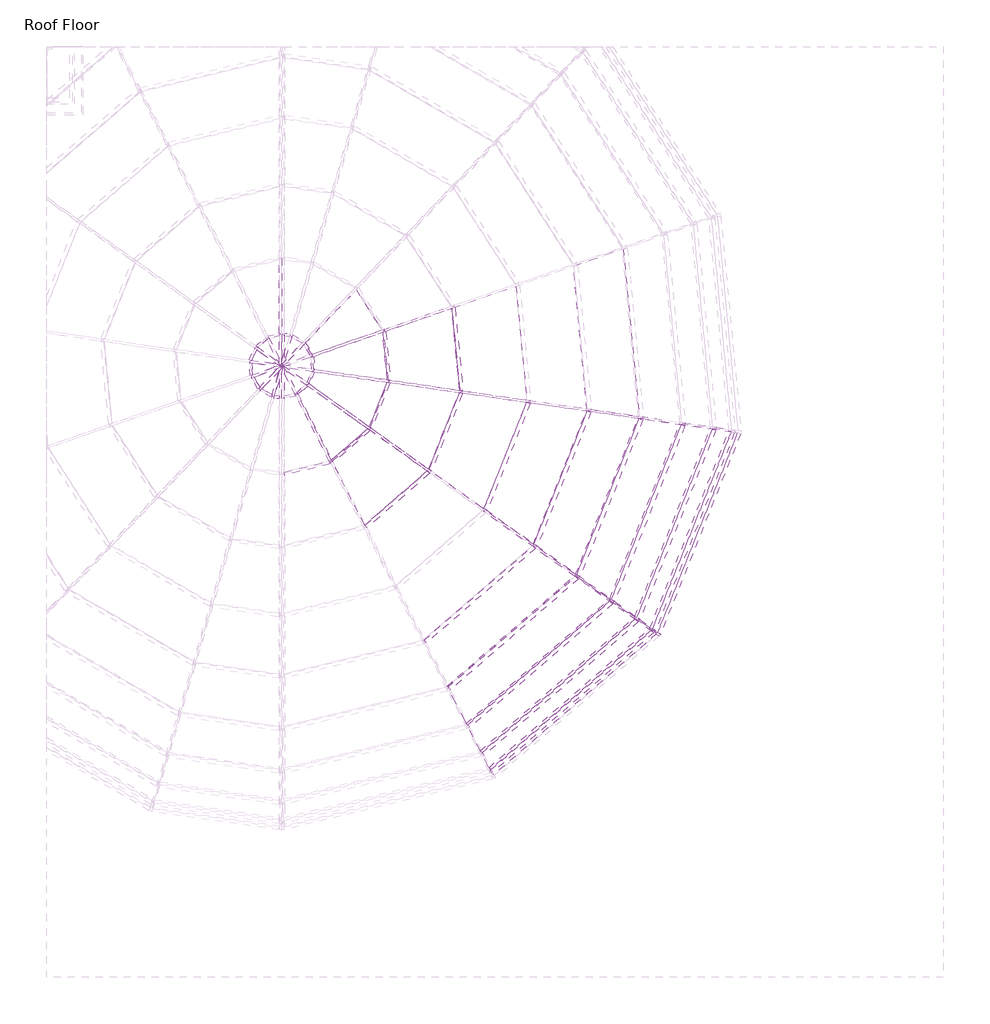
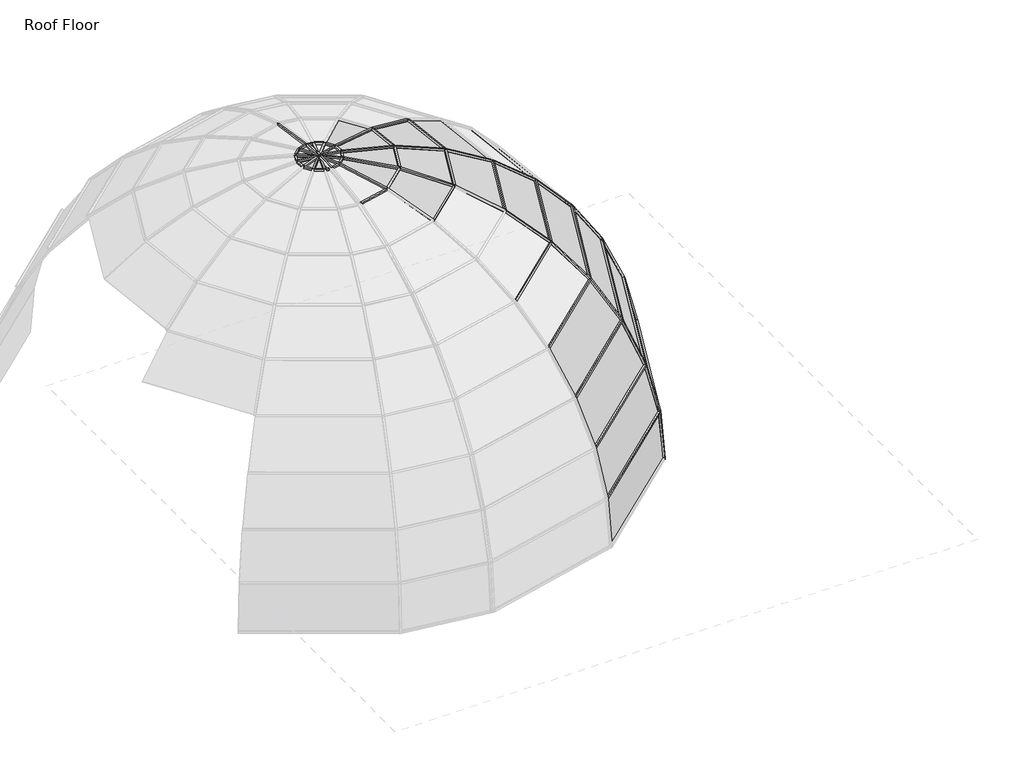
# One storey, part 3 of 5: 68 members, 25 plates.
"""IFC4 building model written with IfcOpenShell, lengths in millimetres."""

from ifc_helpers import new_model, si_unit, origin, place, context, project, spatial, transform, mapped, element, save
from components import member_e5884c93, member_1644e863, member_ecfbb555, member_3542fcca, member_2c5cd547, member_c2b6c823, member_dee8aa16, member_df6d12cb, member_6952dcc5, member_16c772f1, member_16816f3b, member_95e271e4, member_1143d828, member_7f7bd10d, member_27f65fe7, member_dc070f92, member_3534141e, member_d896c3fe, member_8ccf5568, member_fbc4017a, system_panel_glazed_e103372f, system_panel_glazed_c16507b5, system_panel_glazed_afa622ac, system_panel_glazed_079f8796, system_panel_glazed_c9cd471f, system_panel_glazed_44273b71, system_panel_glazed_224b1453, system_panel_glazed_17e44092, system_panel_glazed_1d538f7b, system_panel_glazed_72ef945e, system_panel_glazed_cac35f12, system_panel_glazed_1ef52394, system_panel_glazed_6927b413, system_panel_glazed_f7af2f91

model = new_model("IFC4")

# Units and contexts
model_context = context("Model", 3, world=origin())
ifc_project = project(units=[si_unit("LENGTHUNIT", "METRE", prefix="MILLI")], contexts=[model_context])

# Site, building, storey
site = spatial("IfcSite", under=ifc_project)
building = spatial("IfcBuilding", under=site)
storey = spatial("IfcBuildingStorey", under=building, Name="Roof Floor", Elevation=15240.0)

# Members
placement = place(None, origin())
member_shape = member_e5884c93(model_context)
element("IfcMember", 1, ObjectType="Rectangular Mullion : 1\" Square", at=placement, inside=storey, context=model_context, shape_type="MappedRepresentation", body=[
    mapped(member_shape, transform((443.8592683, -2777.9023232, 21117.9670279), x_axis=(-0.4123904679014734, 0.4760922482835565, 0.7767047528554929), y_axis=(0.5085307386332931, -0.5870832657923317, 0.6298648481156), z_axis=(0.7558641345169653, 0.6547285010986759, 0.0))),
])
element("IfcMember", 2, ObjectType="Rectangular Mullion : 1\" Square", at=placement, inside=storey, context=model_context, shape_type="MappedRepresentation", body=[
    mapped(member_shape, transform((1078.3289079, -1210.0551724, 21117.9670279), x_axis=(-0.584678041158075, 0.23426761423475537, 0.7767047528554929), y_axis=(0.7209835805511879, -0.28888224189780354, 0.6298648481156), z_axis=(0.37193314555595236, 0.928259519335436, 0.0))),
])
member_2_shape = member_1644e863(model_context)
element("IfcMember", 3, ObjectType="Rectangular Mullion : 1\" Square", at=placement, inside=storey, context=model_context, shape_type="MappedRepresentation", body=[
    mapped(member_2_shape, transform((786.0441912, -3021.6914235, 20482.2624164), x_axis=(-0.32116850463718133, 0.3707792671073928, 0.8714204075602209), y_axis=(0.5705437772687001, -0.6586754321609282, 0.4905369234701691), z_axis=(0.7558641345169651, 0.6547285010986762, 0.0))),
])
element("IfcMember", 4, ObjectType="Rectangular Mullion : 1\" Square", at=placement, inside=storey, context=model_context, shape_type="MappedRepresentation", body=[
    mapped(member_2_shape, transform((1494.1786406, -1269.9938637, 20482.2624164), x_axis=(-0.45534556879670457, 0.18244694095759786, 0.8714204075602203), y_axis=(0.8089042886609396, -0.3241101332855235, 0.4905369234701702), z_axis=(0.371933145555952, 0.9282595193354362, 0.0))),
])
member_3_shape = member_ecfbb555(model_context)
element("IfcMember", 5, ObjectType="Rectangular Mullion : 1\" Square", at=placement, inside=storey, context=model_context, shape_type="MappedRepresentation", body=[
    mapped(member_3_shape, transform((1037.4860785, -3200.8307935, 19785.6060711), x_axis=(-0.21998759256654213, 0.2539689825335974, 0.9418626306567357), y_axis=(0.61666430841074, -0.7119201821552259, 0.33599819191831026), z_axis=(0.7558641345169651, 0.6547285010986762, 0.0))),
])
element("IfcMember", 6, ObjectType="Rectangular Mullion : 1\" Square", at=placement, inside=storey, context=model_context, shape_type="MappedRepresentation", body=[
    mapped(member_3_shape, transform((1799.7503787, -1314.0375859, 19785.6060711), x_axis=(-0.3118935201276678, 0.12496886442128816, 0.9418626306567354), y_axis=(0.8742929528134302, -0.3503099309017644, 0.3359981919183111), z_axis=(0.3719331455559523, 0.928259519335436, 0.0))),
])
member_4_shape = member_3542fcca(model_context)
element("IfcMember", 7, ObjectType="Rectangular Mullion : 1\" Square", at=placement, inside=storey, context=model_context, shape_type="MappedRepresentation", body=[
    mapped(member_4_shape, transform((1191.2004334, -3310.3443394, 19047.3495572), x_axis=(-0.11180378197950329, 0.12907406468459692, 0.9853120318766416), y_axis=(0.6451118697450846, -0.7447620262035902, 0.17076357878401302), z_axis=(0.7558641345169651, 0.6547285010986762, 0.0))),
])
element("IfcMember", 8, ObjectType="Rectangular Mullion : 1\" Square", at=placement, inside=storey, context=model_context, shape_type="MappedRepresentation", body=[
    mapped(member_4_shape, transform((1986.5560183, -1340.9629021, 19047.3495572), x_axis=(-0.15851291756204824, 0.06351263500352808, 0.9853120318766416), y_axis=(0.914625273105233, -0.3664702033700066, 0.17076357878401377), z_axis=(0.37193314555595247, 0.9282595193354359, 0.0))),
])
member_5_shape = member_2c5cd547(model_context)
element("IfcMember", 9, ObjectType="Rectangular Mullion : 1\" Square", at=placement, inside=storey, context=model_context, shape_type="MappedRepresentation", body=[
    mapped(member_5_shape, transform((-2778.6228692, -629.1922106, 22849.1034008), x_axis=(0.9261696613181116, -0.37109578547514, 0.0670647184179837), y_axis=(-0.062253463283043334, 0.02494359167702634, 0.9977486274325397), z_axis=(-0.37193314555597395, -0.9282595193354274, 0.0))),
])
element("IfcMember", 10, ObjectType="Rectangular Mullion : 1\" Square", at=placement, inside=storey, context=model_context, shape_type="MappedRepresentation", body=[
    mapped(member_5_shape, transform((-2718.4357175, -494.6219605, 22849.1034008), x_axis=(0.6532544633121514, -0.7541624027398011, 0.0670647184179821), y_axis=(-0.04390918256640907, 0.05069181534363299, 0.9977486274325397), z_axis=(-0.7558641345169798, -0.6547285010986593, 0.0))),
])
element("IfcMember", 11, ObjectType="Rectangular Mullion : 1\" Square", at=placement, inside=storey, context=model_context, shape_type="MappedRepresentation", body=[
    mapped(member_5_shape, transform((-2571.1893455, -982.2556366, 22849.1034008), x_axis=(0.4994285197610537, 0.8637554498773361, 0.06706471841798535), y_axis=(-0.033569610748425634, -0.05805822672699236, 0.9977486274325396), z_axis=(0.8657044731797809, -0.5005554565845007, 0.0))),
])
element("IfcMember", 12, ObjectType="Rectangular Mullion : 1\" Square", at=placement, inside=storey, context=model_context, shape_type="MappedRepresentation", body=[
    mapped(member_5_shape, transform((-2695.796785, -903.4861534, 22849.1034008), x_axis=(0.8396425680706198, 0.5389830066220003, 0.06706471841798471), y_axis=(-0.056437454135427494, -0.03622830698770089, 0.9977486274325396), z_axis=(0.5401991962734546, -0.8415371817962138, 0.0))),
])
element("IfcMember", 13, ObjectType="Rectangular Mullion : 1\" Square", at=placement, inside=storey, context=model_context, shape_type="MappedRepresentation", body=[
    mapped(member_5_shape, transform((-2770.4728536, -776.38332, 22849.1034008), x_axis=(0.9932693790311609, 0.09443656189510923, 0.06706471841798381), y_axis=(-0.06676364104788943, -0.006347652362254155, 0.9977486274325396), z_axis=(0.09464965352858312, -0.9955106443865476, 0.0))),
])
element("IfcMember", 14, ObjectType="Rectangular Mullion : 1\" Square", at=placement, inside=storey, context=model_context, shape_type="MappedRepresentation", body=[
    mapped(member_5_shape, transform((-2223.7755139, -877.3501947, 22849.1034008), x_axis=(-0.6532544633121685, 0.754162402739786, 0.0670647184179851), y_axis=(0.04390918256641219, -0.050691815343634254, 0.9977486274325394), z_axis=(0.7558641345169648, 0.6547285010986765, 0.0))),
])
element("IfcMember", 15, ObjectType="Rectangular Mullion : 1\" Square", at=placement, inside=storey, context=model_context, shape_type="MappedRepresentation", body=[
    mapped(member_5_shape, transform((-2163.5883622, -742.7799446, 22849.1034008), x_axis=(-0.9261696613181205, 0.3710957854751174, 0.06706471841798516), y_axis=(0.0622534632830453, -0.024943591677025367, 0.9977486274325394), z_axis=(0.37193314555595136, 0.9282595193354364, 0.0))),
])
element("IfcMember", 16, ObjectType="Rectangular Mullion : 1\" Square", at=placement, inside=storey, context=model_context, shape_type="MappedRepresentation", body=[
    mapped(member_5_shape, transform((-2171.7383778, -595.5888351, 22849.1034008), x_axis=(-0.9932693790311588, -0.0944365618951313, 0.06706471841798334), y_axis=(0.06676364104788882, 0.006347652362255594, 0.9977486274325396), z_axis=(-0.09464965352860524, 0.9955106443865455, 0.0))),
])
element("IfcMember", 17, ObjectType="Rectangular Mullion : 1\" Square", at=placement, inside=storey, context=model_context, shape_type="MappedRepresentation", body=[
    mapped(member_5_shape, transform((-2246.4144464, -468.4860018, 22849.1034008), x_axis=(-0.8396425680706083, -0.5389830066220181, 0.06706471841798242), y_axis=(0.056437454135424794, 0.03622830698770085, 0.9977486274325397), z_axis=(-0.5401991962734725, 0.8415371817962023, 0.0))),
])
element("IfcMember", 18, ObjectType="Rectangular Mullion : 1\" Square", at=placement, inside=storey, context=model_context, shape_type="MappedRepresentation", body=[
    mapped(member_5_shape, transform((-2371.0218859, -389.7165186, 22849.1034008), x_axis=(-0.499428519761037, -0.863755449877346, 0.06706471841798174), y_axis=(0.033569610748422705, 0.05805822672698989, 0.9977486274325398), z_axis=(-0.8657044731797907, 0.500555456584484, 0.0))),
])
member_6_shape = member_c2b6c823(model_context)
element("IfcMember", 19, ObjectType="Rectangular Mullion : 1\" Square", at=placement, inside=storey, context=model_context, shape_type="MappedRepresentation", body=[
    mapped(member_6_shape, transform((-2603.2863208, -402.5770697, 22849.1034008), x_axis=(0.23517160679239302, -0.9696373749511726, 0.06706471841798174), y_axis=(-0.015807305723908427, 0.0651751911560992, 0.9977486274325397), z_axis=(-0.9718253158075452, -0.2357022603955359, 0.0))),
])
element("IfcMember", 20, ObjectType="Rectangular Mullion : 1\" Square", at=placement, inside=storey, context=model_context, shape_type="MappedRepresentation", body=[
    mapped(member_6_shape, transform((-2338.9249106, -969.3950855, 22849.1034008), x_axis=(-0.23517160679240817, 0.9696373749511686, 0.06706471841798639), y_axis=(0.015807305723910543, -0.06517519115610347, 0.9977486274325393), z_axis=(0.9718253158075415, 0.23570226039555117, 0.0))),
])
member_7_shape = member_dee8aa16(model_context)
element("IfcMember", 21, ObjectType="Rectangular Mullion : 1\" Square", at=placement, inside=storey, context=model_context, shape_type="MappedRepresentation", body=[
    mapped(member_7_shape, transform((-1610.3728189, -1314.3679625, 22733.3596998), x_axis=(-0.6375613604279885, 0.7360451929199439, 0.22749282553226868), y_axis=(0.14894603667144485, -0.17195366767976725, 0.9737797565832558), z_axis=(0.7558641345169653, 0.6547285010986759, 0.0))),
])
element("IfcMember", 22, ObjectType="Rectangular Mullion : 1\" Square", at=placement, inside=storey, context=model_context, shape_type="MappedRepresentation", body=[
    mapped(member_7_shape, transform((-1418.133698, -850.2263934, 22733.3596998), x_axis=(-0.9039203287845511, 0.3621809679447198, 0.22749282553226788), y_axis=(0.21117238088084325, -0.08461212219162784, 0.973779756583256), z_axis=(0.3719331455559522, 0.928259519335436, 0.0))),
])
element("IfcMember", 23, ObjectType="Rectangular Mullion : 1\" Square", at=placement, inside=storey, context=model_context, shape_type="MappedRepresentation", body=[
    mapped(member_7_shape, transform((-1459.8883366, -349.5869764, 22733.3596998), x_axis=(-0.9694081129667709, -0.09216791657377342, 0.227492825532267), y_axis=(0.22647152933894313, 0.021532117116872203, 0.9737797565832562), z_axis=(-0.09464965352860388, 0.9955106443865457, 0.0))),
])
member_8_shape = member_df6d12cb(model_context)
element("IfcMember", 24, ObjectType="Rectangular Mullion : 1\" Square", at=placement, inside=storey, context=model_context, shape_type="MappedRepresentation", body=[
    mapped(member_8_shape, transform((-1993.8858946, -1638.8691127, 22733.3596998), x_axis=(-0.22952208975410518, 0.9463438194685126, 0.2274928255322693), y_axis=(0.05362057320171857, -0.22108328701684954, 0.9737797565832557), z_axis=(0.9718253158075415, 0.2357022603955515, 0.0))),
])
member_9_shape = member_6952dcc5(model_context)
element("IfcMember", 25, ObjectType="Rectangular Mullion : 1\" Square", at=placement, inside=storey, context=model_context, shape_type="MappedRepresentation", body=[
    mapped(member_9_shape, transform((1257.240438, -3327.0860706, 18288.0), x_axis=(0.07519001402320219, -0.03012698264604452, -0.9967140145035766), y_axis=(0.9252092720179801, -0.3707109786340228, 0.08100106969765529), z_axis=(-0.3719331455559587, -0.9282595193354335, 0.0))),
])
member_10_shape = member_16c772f1(model_context)
element("IfcMember", 26, ObjectType="Rectangular Mullion : 1\" Square", at=placement, inside=storey, context=model_context, shape_type="MappedRepresentation", body=[
    mapped(member_10_shape, transform((-1021.1460202, -1734.1616515, 22494.1337848), x_axis=(-0.60492226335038, 0.6983643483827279, 0.38256540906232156), y_axis=(0.2504764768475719, -0.2891674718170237, 0.9239284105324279), z_axis=(0.7558641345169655, 0.6547285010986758, 0.0))),
])
element("IfcMember", 27, ObjectType="Rectangular Mullion : 1\" Square", at=placement, inside=storey, context=model_context, shape_type="MappedRepresentation", body=[
    mapped(member_10_shape, transform((-702.0594635, -953.4380805, 22494.1337848), x_axis=(-0.8576453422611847, 0.3436395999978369, 0.3825654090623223), y_axis=(0.3551199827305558, -0.1422887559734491, 0.9239284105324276), z_axis=(0.37193314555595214, 0.9282595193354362, 0.0))),
])
element("IfcMember", 28, ObjectType="Rectangular Mullion : 1\" Square", at=placement, inside=storey, context=model_context, shape_type="MappedRepresentation", body=[
    mapped(member_10_shape, transform((-776.094274, -113.2807311, 22494.1337848), x_axis=(-0.9197805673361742, -0.08744950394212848, 0.3825654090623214), y_axis=(0.3808479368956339, 0.03620968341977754, 0.9239284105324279), z_axis=(-0.09464965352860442, 0.9955106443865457, 0.0))),
])
member_11_shape = member_16816f3b(model_context)
element("IfcMember", 29, ObjectType="Rectangular Mullion : 1\" Square", at=placement, inside=storey, context=model_context, shape_type="MappedRepresentation", body=[
    mapped(member_11_shape, transform((-35.2566097, -1049.5480147, 22138.0708204), x_axis=(-0.7880786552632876, 0.31576576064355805, 0.5284165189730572), y_axis=(0.4905076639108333, -0.19653561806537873, 0.8489852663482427), z_axis=(0.37193314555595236, 0.928259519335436, 0.0))),
])
member_12_shape = member_95e271e4(model_context)
element("IfcMember", 30, ObjectType="Rectangular Mullion : 1\" Square", at=placement, inside=storey, context=model_context, shape_type="MappedRepresentation", body=[
    mapped(member_12_shape, transform((20.4364465, -2476.2354119, 21675.0614442), x_axis=(-0.4912361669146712, 0.5671172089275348, 0.6611089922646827), y_axis=(0.43284689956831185, -0.4997085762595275, 0.7502898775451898), z_axis=(0.7558641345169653, 0.6547285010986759, 0.0))),
])
element("IfcMember", 31, ObjectType="Rectangular Mullion : 1\" Square", at=placement, inside=storey, context=model_context, shape_type="MappedRepresentation", body=[
    mapped(member_12_shape, transform((563.752562, -1135.8864755, 21675.0614442), x_axis=(-0.6964637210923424, 0.2790576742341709, 0.6611089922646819), y_axis=(0.6136807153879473, -0.24588834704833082, 0.7502898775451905), z_axis=(0.3719331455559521, 0.9282595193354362, 0.0))),
])
member_13_shape = member_1143d828(model_context)
element("IfcMember", 32, ObjectType="Rectangular Mullion : 1\" Square", at=placement, inside=storey, context=model_context, shape_type="MappedRepresentation", body=[
    mapped(member_13_shape, transform((-2496.2458139, -997.8300214, 22849.1034008), x_axis=(0.1423280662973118, 0.9874604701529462, 0.06829744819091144), y_axis=(-0.00974339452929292, -0.06759887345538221, 0.9976650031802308), z_axis=(0.9897715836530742, -0.14266117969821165, 0.0))),
])
element("IfcMember", 33, ObjectType="Rectangular Mullion : 1\" Square", at=placement, inside=storey, context=model_context, shape_type="MappedRepresentation", body=[
    mapped(member_13_shape, transform((-2445.9654175, -374.1421337, 22849.1034008), x_axis=(-0.14232806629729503, -0.987460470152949, 0.06829744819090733), y_axis=(0.009743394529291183, 0.06759887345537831, 0.997665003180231), z_axis=(-0.9897715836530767, 0.14266117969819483, 0.0))),
])
member_14_shape = member_7f7bd10d(model_context)
element("IfcMember", 34, ObjectType="Rectangular Mullion : 1\" Square", at=placement, inside=storey, context=model_context, shape_type="MappedRepresentation", body=[
    mapped(member_14_shape, transform((1200.7999079, -3302.0292875, 19047.3495572), x_axis=(0.5802469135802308, 0.8144406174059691, 0.0), y_axis=(0.7890631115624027, -0.5621667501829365, 0.24768518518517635), z_axis=(0.20172487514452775, -0.1437185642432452, -0.9688405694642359))),
])
element("IfcMember", 35, ObjectType="Rectangular Mullion : 1\" Square", at=placement, inside=storey, context=model_context, shape_type="MappedRepresentation", body=[
    mapped(member_14_shape, transform((1047.085553, -3192.5157415, 19785.6060711), x_axis=(0.5802469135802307, 0.8144406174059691, 0.0), y_axis=(0.7446000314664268, -0.5304890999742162, 0.40515689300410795), z_axis=(0.32997623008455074, -0.23509103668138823, -0.9142471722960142))),
])
element("IfcMember", 36, ObjectType="Rectangular Mullion : 1\" Square", at=placement, inside=storey, context=model_context, shape_type="MappedRepresentation", body=[
    mapped(member_14_shape, transform((795.6436657, -3013.3763715, 20482.2624164), x_axis=(0.5802469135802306, 0.8144406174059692, 0.0), y_axis=(0.6794536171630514, -0.4840756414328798, 0.5513742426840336), z_axis=(0.449061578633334, -0.3199332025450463, -0.8342580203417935))),
])
element("IfcMember", 37, ObjectType="Rectangular Mullion : 1\" Square", at=placement, inside=storey, context=model_context, shape_type="MappedRepresentation", body=[
    mapped(member_14_shape, transform((453.4587428, -2769.5872712, 21117.9670279), x_axis=(0.5802469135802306, 0.8144406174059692, 0.0), y_axis=(0.5954334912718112, -0.424215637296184, 0.6822756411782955), z_axis=(0.5556729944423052, -0.3958883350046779, -0.7310950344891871))),
])
element("IfcMember", 38, ObjectType="Rectangular Mullion : 1\" Square", at=placement, inside=storey, context=model_context, shape_type="MappedRepresentation", body=[
    mapped(member_14_shape, transform((30.035921, -2467.9203599, 21675.0614442), x_axis=(0.5802469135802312, 0.8144406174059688, 0.0), y_axis=(0.49487354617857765, -0.3525718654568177, 0.7942249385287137), z_axis=(0.6468490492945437, -0.4608465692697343, -0.607623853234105))),
])
element("IfcMember", 39, ObjectType="Rectangular Mullion : 1\" Square", at=placement, inside=storey, context=model_context, shape_type="MappedRepresentation", body=[
    mapped(member_14_shape, transform((-1011.5465457, -1725.8465996, 22494.1337848), x_axis=(0.5802469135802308, 0.8144406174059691, 0.0), y_axis=(0.25568937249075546, -0.18216548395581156, 0.949441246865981), z_axis=(0.773263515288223, -0.5509103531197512, -0.31394477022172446))),
])
element("IfcMember", 40, ObjectType="Rectangular Mullion : 1\" Square", at=placement, inside=storey, context=model_context, shape_type="MappedRepresentation", body=[
    mapped(member_14_shape, transform((1991.2795692, -1329.1740062, 19047.3495572), x_axis=(0.14266117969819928, 0.9897715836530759, 0.0), y_axis=(0.9589308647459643, -0.13821593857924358, 0.247685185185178), z_axis=(0.24515175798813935, -0.03533506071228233, -0.9688405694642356))),
])
element("IfcMember", 41, ObjectType="Rectangular Mullion : 1\" Square", at=placement, inside=storey, context=model_context, shape_type="MappedRepresentation", body=[
    mapped(member_14_shape, transform((1804.4739296, -1302.24869, 19785.6060711), x_axis=(0.14266117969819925, 0.9897715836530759, 0.0), y_axis=(0.9048958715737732, -0.13042758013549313, 0.4051568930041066), z_axis=(0.40101277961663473, -0.057800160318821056, -0.9142471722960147))),
])
element("IfcMember", 42, ObjectType="Rectangular Mullion : 1\" Square", at=placement, inside=storey, context=model_context, shape_type="MappedRepresentation", body=[
    mapped(member_14_shape, transform((1498.9021915, -1258.2049678, 20482.2624164), x_axis=(0.14266117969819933, 0.9897715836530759, 0.0), y_axis=(0.8257248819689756, -0.11901623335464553, 0.5513742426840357), z_axis=(0.5457345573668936, -0.07865969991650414, -0.8342580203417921))),
])
element("IfcMember", 43, ObjectType="Rectangular Mullion : 1\" Square", at=placement, inside=storey, context=model_context, shape_type="MappedRepresentation", body=[
    mapped(member_14_shape, transform((1083.0524588, -1198.2662765, 21117.9670279), x_axis=(0.14266117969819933, 0.9897715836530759, 0.0), y_axis=(0.7236170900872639, -0.10429888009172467, 0.6822756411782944), z_axis=(0.6752970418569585, -0.09733424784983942, -0.7310950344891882))),
])
element("IfcMember", 44, ObjectType="Rectangular Mullion : 1\" Square", at=placement, inside=storey, context=model_context, shape_type="MappedRepresentation", body=[
    mapped(member_14_shape, transform((568.4761129, -1124.0975796, 21675.0614442), x_axis=(0.14266117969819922, 0.989771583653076, 0.0), y_axis=(0.6014088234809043, -0.08668433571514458, 0.7942249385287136), z_axis=(0.7861012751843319, -0.11330506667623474, -0.6076238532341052))),
])
element("IfcMember", 45, ObjectType="Rectangular Mullion : 1\" Square", at=placement, inside=storey, context=model_context, shape_type="MappedRepresentation", body=[
    mapped(member_14_shape, transform((-30.5330588, -1037.7591188, 22138.0708204), x_axis=(0.14266117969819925, 0.989771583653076, 0.0), y_axis=(0.462494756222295, -0.06666189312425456, 0.8841124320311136), z_axis=(0.8750693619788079, -0.12612852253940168, -0.46727423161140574))),
])
element("IfcMember", 46, ObjectType="Rectangular Mullion : 1\" Square", at=placement, inside=storey, context=model_context, shape_type="MappedRepresentation", body=[
    mapped(member_14_shape, transform((-697.3359126, -941.6491846, 22494.1337848), x_axis=(0.1426611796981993, 0.9897715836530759, 0.0), y_axis=(0.310733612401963, -0.04478773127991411, 0.949441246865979), z_axis=(0.9397299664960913, -0.13544840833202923, -0.31394477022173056))),
])
element("IfcMember", 47, ObjectType="Rectangular Mullion : 1\" Square", at=placement, inside=storey, context=model_context, shape_type="MappedRepresentation", body=[
    mapped(member_14_shape, transform((-777.2963246, -100.6377459, 22494.1337848), x_axis=(-0.3266270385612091, 0.9451533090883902, 0.0), y_axis=(0.2967259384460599, 0.10254285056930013, 0.9494412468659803), z_axis=(0.8973675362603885, 0.3101131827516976, -0.3139447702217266))),
])
member_15_shape = member_27f65fe7(model_context)
element("IfcMember", 48, ObjectType="Rectangular Mullion : 1\" Square", at=placement, inside=storey, context=model_context, shape_type="MappedRepresentation", body=[
    mapped(member_15_shape, transform((-1981.5437131, -1635.875694, 22733.3596998), x_axis=(0.8888888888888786, 0.4581228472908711, 0.0), y_axis=(0.06958639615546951, -0.1350174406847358, 0.9883966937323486), z_axis=(0.45280710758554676, -0.8785748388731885, -0.15189462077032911))),
])
element("IfcMember", 49, ObjectType="Rectangular Mullion : 1\" Square", at=placement, inside=storey, context=model_context, shape_type="MappedRepresentation", body=[
    mapped(member_15_shape, transform((-1600.7733444, -1306.0529105, 22733.3596998), x_axis=(0.5802469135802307, 0.8144406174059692, 0.0), y_axis=(0.1237091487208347, -0.08813638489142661, 0.988396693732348), z_axis=(0.804990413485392, -0.5735141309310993, -0.15189462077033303))),
])
element("IfcMember", 50, ObjectType="Rectangular Mullion : 1\" Square", at=placement, inside=storey, context=model_context, shape_type="MappedRepresentation", body=[
    mapped(member_15_shape, transform((-1413.4101471, -838.4374975, 22733.3596998), x_axis=(0.14266117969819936, 0.9897715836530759, 0.0), y_axis=(0.15034097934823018, -0.021669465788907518, 0.9883966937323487), z_axis=(0.9782869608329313, -0.14100583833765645, -0.1518946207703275))),
])
element("IfcMember", 51, ObjectType="Rectangular Mullion : 1\" Square", at=placement, inside=storey, context=model_context, shape_type="MappedRepresentation", body=[
    mapped(member_15_shape, transform((-1461.0903872, -336.9439912, 22733.3596998), x_axis=(-0.3266270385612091, 0.9451533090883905, 0.0), y_axis=(0.14356370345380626, 0.04961289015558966, 0.9883966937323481), z_axis=(0.9341864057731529, 0.3228370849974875, -0.15189462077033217))),
])
member_16_shape = member_dc070f92(model_context)
element("IfcMember", 52, ObjectType="Rectangular Mullion : 1\" Square", at=placement, inside=storey, context=model_context, shape_type="MappedRepresentation", body=[
    mapped(member_16_shape, transform((-2615.6285023, -405.5704884, 22849.1034008), x_axis=(-0.888888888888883, -0.45812284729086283, 0.0), y_axis=(-0.01594182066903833, 0.03093167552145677, 0.9993943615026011), z_axis=(-0.45784539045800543, 0.8883505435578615, -0.034798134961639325))),
])
element("IfcMember", 53, ObjectType="Rectangular Mullion : 1\" Square", at=placement, inside=storey, context=model_context, shape_type="MappedRepresentation", body=[
    mapped(member_16_shape, transform((-2728.035192, -502.9370124, 22849.1034008), x_axis=(-0.5802469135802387, -0.8144406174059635, 0.0), y_axis=(-0.028341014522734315, 0.020191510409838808, 0.9993943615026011), z_axis=(-0.8139473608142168, 0.5798954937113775, -0.03479813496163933))),
])
element("IfcMember", 54, ObjectType="Rectangular Mullion : 1\" Square", at=placement, inside=storey, context=model_context, shape_type="MappedRepresentation", body=[
    mapped(member_16_shape, transform((-2783.3464202, -640.9811065, 22849.1034008), x_axis=(-0.1426611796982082, -0.9897715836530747, 0.0), y_axis=(-0.03444220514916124, 0.004964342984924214, 0.9993943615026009), z_axis=(-0.9891721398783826, 0.14257477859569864, -0.034798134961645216))),
])
element("IfcMember", 55, ObjectType="Rectangular Mullion : 1\" Square", at=placement, inside=storey, context=model_context, shape_type="MappedRepresentation", body=[
    mapped(member_16_shape, transform((-2326.582729, -966.4016667, 22849.1034008), x_axis=(0.8888888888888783, 0.4581228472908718, 0.0), y_axis=(0.015941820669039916, -0.03093167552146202, 0.9993943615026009), z_axis=(0.45784539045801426, -0.8883505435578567, -0.034798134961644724))),
])
element("IfcMember", 56, ObjectType="Rectangular Mullion : 1\" Square", at=placement, inside=storey, context=model_context, shape_type="MappedRepresentation", body=[
    mapped(member_16_shape, transform((-2214.1760394, -869.0351427, 22849.1034008), x_axis=(0.5802469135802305, 0.8144406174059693, 0.0), y_axis=(0.02834101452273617, -0.020191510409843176, 0.9993943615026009), z_axis=(0.8139473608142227, -0.5798954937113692, -0.034798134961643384))),
])
element("IfcMember", 57, ObjectType="Rectangular Mullion : 1\" Square", at=placement, inside=storey, context=model_context, shape_type="MappedRepresentation", body=[
    mapped(member_16_shape, transform((-2158.8648112, -730.9910487, 22849.1034008), x_axis=(0.14266117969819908, 0.989771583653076, 0.0), y_axis=(0.03444220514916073, -0.004964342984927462, 0.9993943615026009), z_axis=(0.989172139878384, -0.1425747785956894, -0.034798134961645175))),
])
element("IfcMember", 58, ObjectType="Rectangular Mullion : 1\" Square", at=placement, inside=storey, context=model_context, shape_type="MappedRepresentation", body=[
    mapped(member_16_shape, transform((-2172.9404284, -582.9458499, 22849.1034008), x_axis=(-0.3266270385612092, 0.9451533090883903, 0.0), y_axis=(0.032889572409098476, 0.011366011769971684, 0.9993943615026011), z_axis=(0.9445808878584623, 0.3264292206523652, -0.03479813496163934))),
])
element("IfcMember", 59, ObjectType="Rectangular Mullion : 1\" Square", at=placement, inside=storey, context=model_context, shape_type="MappedRepresentation", body=[
    mapped(member_16_shape, transform((-2253.2749761, -457.7984796, 22849.1034008), x_axis=(-0.7233314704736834, 0.6905009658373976, 0.0), y_axis=(0.02402814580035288, 0.025170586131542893, 0.9993943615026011), z_axis=(0.6900827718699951, 0.7228933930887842, -0.03479813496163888))),
])
element("IfcMember", 60, ObjectType="Rectangular Mullion : 1\" Square", at=placement, inside=storey, context=model_context, shape_type="MappedRepresentation", body=[
    mapped(member_16_shape, transform((-2382.0163327, -383.3594643, 22849.1034008), x_axis=(-0.9592955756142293, 0.28240396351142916, 0.0), y_axis=(0.009827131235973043, 0.033381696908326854, 0.9993943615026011), z_axis=(0.2822329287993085, 0.9587145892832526, -0.034798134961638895))),
])
member_17_shape = member_3534141e(model_context)
element("IfcMember", 61, ObjectType="Rectangular Mullion : 1\" Square", at=placement, inside=storey, context=model_context, shape_type="MappedRepresentation", body=[
    mapped(member_17_shape, transform((-2471.1056157, -370.5185398, 22849.1034008), x_axis=(0.9993221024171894, 0.005591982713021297, 0.036387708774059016), y_axis=(-0.0368148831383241, 0.15179165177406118, 0.9877266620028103), z_axis=(0.0, -0.9883966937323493, 0.15189462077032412))),
])
member_18_shape = member_d896c3fe(model_context)
element("IfcMember", 62, ObjectType="Rectangular Mullion : 1\" Square", at=placement, inside=storey, context=model_context, shape_type="MappedRepresentation", body=[
    mapped(member_18_shape, transform((-2471.1056157, -683.4460776, 22859.9992944), x_axis=(0.9999649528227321, 0.00029133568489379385, 0.008367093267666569), y_axis=(-0.008372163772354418, 0.034796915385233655, 0.999359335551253), z_axis=(0.0, -0.999394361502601, 0.03479813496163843))),
])
element("IfcMember", 63, ObjectType="Rectangular Mullion : 1\" Square", at=placement, inside=storey, context=model_context, shape_type="MappedRepresentation", body=[
    mapped(member_18_shape, transform((-2471.1056157, -688.5260776, 22859.9992944), x_axis=(-0.9999649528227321, -0.0002913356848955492, 0.008367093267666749), y_axis=(0.00837216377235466, -0.034796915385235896, 0.9993593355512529), z_axis=(0.0, 0.999394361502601, 0.03479813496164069))),
])
member_19_shape = member_8ccf5568(model_context)
element("IfcMember", 64, ObjectType="Rectangular Mullion : 1\" Square", at=placement, inside=storey, context=model_context, shape_type="MappedRepresentation", body=[
    mapped(member_19_shape, transform((1252.5168871, -3338.8749665, 18288.0), x_axis=(0.5802469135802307, 0.8144406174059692, 0.0), y_axis=(0.8116077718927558, -0.5782286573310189, 0.0833333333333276), z_axis=(0.06787005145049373, -0.04835390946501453, -0.9965217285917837))),
])
element("IfcMember", 65, ObjectType="Rectangular Mullion : 1\" Square", at=placement, inside=storey, context=model_context, shape_type="MappedRepresentation", body=[
    mapped(member_16_shape, transform((-2769.270803, -789.0263052, 22849.1034008), x_axis=(0.3266270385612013, -0.9451533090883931, 0.0), y_axis=(-0.032889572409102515, -0.011366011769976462, 0.9993943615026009), z_axis=(-0.944580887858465, -0.32642922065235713, -0.034798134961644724))),
])
element("IfcMember", 66, ObjectType="Rectangular Mullion : 1\" Square", at=placement, inside=storey, context=model_context, shape_type="MappedRepresentation", body=[
    mapped(member_16_shape, transform((-2688.9362552, -914.1736756, 22849.1034008), x_axis=(0.7233314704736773, -0.6905009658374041, 0.0), y_axis=(-0.024028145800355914, -0.025170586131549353, 0.9993943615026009), z_axis=(-0.6900827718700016, -0.722893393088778, -0.03479813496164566))),
])
element("IfcMember", 67, ObjectType="Rectangular Mullion : 1\" Square", at=placement, inside=storey, context=model_context, shape_type="MappedRepresentation", body=[
    mapped(member_16_shape, transform((-2560.1948987, -988.6126908, 22849.1034008), x_axis=(0.959295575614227, -0.28240396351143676, 0.0), y_axis=(-0.009827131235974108, -0.03338169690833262, 0.9993943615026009), z_axis=(-0.2822329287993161, -0.9587145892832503, -0.03479813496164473))),
])
member_20_shape = member_fbc4017a(model_context)
element("IfcMember", 68, ObjectType="Rectangular Mullion : 1\" Square", at=placement, inside=storey, context=model_context, shape_type="MappedRepresentation", body=[
    mapped(member_20_shape, transform((-2471.1056157, -370.5185398, 22849.1034008), x_axis=(-0.9999876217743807, 0.00017314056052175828, 0.004972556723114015), y_axis=(0.004975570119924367, 0.03479770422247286, 0.9993819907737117), z_axis=(0.0, 0.999394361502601, -0.03479813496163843))),
])

# Plates
system_panel_glazed_shape = system_panel_glazed_e103372f(model_context)
element("IfcPlate", 69, ObjectType="System Panel : Glazed", at=placement, inside=storey, context=model_context, shape_type="MappedRepresentation", body=[
    mapped(system_panel_glazed_shape, transform((436.6274084, -4042.8753866, 18313.316536), x_axis=(0.7558641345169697, 0.654728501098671, 0.0), y_axis=(-0.6525770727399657, 0.7533803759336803, -0.08100106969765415), z_axis=(-0.053033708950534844, 0.061225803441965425, 0.9967140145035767))),
])
element("IfcPlate", 70, ObjectType="System Panel : Glazed", at=placement, inside=storey, context=model_context, shape_type="MappedRepresentation", body=[
    mapped(system_panel_glazed_shape, transform((1651.4136496, -2337.7887535, 18313.316536), x_axis=(0.3719331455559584, 0.9282595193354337, 0.0), y_axis=(-0.9252092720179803, 0.3707109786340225, -0.08100106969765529), z_axis=(-0.07519001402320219, 0.030126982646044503, 0.9967140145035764))),
])
system_panel_glazed_2_shape = system_panel_glazed_c16507b5(model_context)
element("IfcPlate", 71, ObjectType="System Panel : Glazed", at=placement, inside=storey, context=model_context, shape_type="MappedRepresentation", body=[
    mapped(system_panel_glazed_2_shape, transform((395.5656661, -3995.4708544, 19059.674854), x_axis=(0.7558641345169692, 0.6547285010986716, 0.0), y_axis=(-0.6354112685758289, 0.7335629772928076, -0.2411179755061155), z_axis=(-0.1578668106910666, 0.18225242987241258, 0.970495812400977))),
])
element("IfcPlate", 72, ObjectType="System Panel : Glazed", at=placement, inside=storey, context=model_context, shape_type="MappedRepresentation", body=[
    mapped(system_panel_glazed_2_shape, transform((1593.1972238, -2314.4627138, 19059.674854), x_axis=(0.37193314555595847, 0.9282595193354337, 0.0), y_axis=(-0.9008719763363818, 0.3609595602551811, -0.24111797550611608), z_axis=(-0.2238200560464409, 0.08967976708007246, 0.9704958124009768))),
])
system_panel_glazed_3_shape = system_panel_glazed_afa622ac(model_context)
element("IfcPlate", 73, ObjectType="System Panel : Glazed", at=placement, inside=storey, context=model_context, shape_type="MappedRepresentation", body=[
    mapped(system_panel_glazed_3_shape, transform((274.1922204, -3855.3489042, 19797.2703184), x_axis=(0.7558641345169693, 0.6547285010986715, 0.0), y_axis=(-0.6013319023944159, 0.6942193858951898, -0.39554947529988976), z_axis=(-0.2589775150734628, 0.29898166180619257, 0.9184446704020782))),
])
element("IfcPlate", 74, ObjectType="System Panel : Glazed", at=placement, inside=storey, context=model_context, shape_type="MappedRepresentation", body=[
    mapped(system_panel_glazed_3_shape, transform((1421.1166497, -2245.5138176, 19797.2703184), x_axis=(0.3719331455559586, 0.9282595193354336, 0.0), y_axis=(-0.8525550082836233, 0.3416000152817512, -0.39554947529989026), z_axis=(-0.36717256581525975, 0.14711796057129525, 0.9184446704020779))),
])
system_panel_glazed_4_shape = system_panel_glazed_079f8796(model_context)
element("IfcPlate", 75, ObjectType="System Panel : Glazed", at=placement, inside=storey, context=model_context, shape_type="MappedRepresentation", body=[
    mapped(system_panel_glazed_4_shape, transform((76.5486179, -3627.1753784, 20492.9481164), x_axis=(0.7558641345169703, 0.6547285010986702, 0.0), y_axis=(-0.5508844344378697, 0.6359793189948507, -0.5404226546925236), z_axis=(-0.35383011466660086, 0.4084861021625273, 0.8413936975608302))),
])
element("IfcPlate", 76, ObjectType="System Panel : Glazed", at=placement, inside=storey, context=model_context, shape_type="MappedRepresentation", body=[
    mapped(system_panel_glazed_4_shape, transform((1140.9019422, -2133.2379557, 20492.9481164), x_axis=(0.3719331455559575, 0.9282595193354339, 0.0), y_axis=(-0.7810317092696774, 0.3129422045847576, -0.5404226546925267), z_axis=(-0.5016524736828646, 0.20100109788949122, 0.841393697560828))),
])
system_panel_glazed_5_shape = system_panel_glazed_c9cd471f(model_context)
element("IfcPlate", 77, ObjectType="System Panel : Glazed", at=placement, inside=storey, context=model_context, shape_type="MappedRepresentation", body=[
    mapped(system_panel_glazed_5_shape, transform((760.3358637, -1980.7535096, 21127.3743739), x_axis=(0.37193314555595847, 0.9282595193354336, 0.0), y_axis=(-0.6875951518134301, 0.2755042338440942, -0.6717963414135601), z_axis=(-0.6236013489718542, 0.24986332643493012, 0.7407359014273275))),
])
element("IfcPlate", 78, ObjectType="System Panel : Glazed", at=placement, inside=storey, context=model_context, shape_type="MappedRepresentation", body=[
    mapped(system_panel_glazed_5_shape, transform((994.4493529, -356.4932902, 21127.3743739), x_axis=(-0.09464965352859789, 0.9955106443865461, 0.0), y_axis=(-0.7374104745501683, -0.07011039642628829, -0.67179634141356), z_axis=(-0.6687804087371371, -0.06358529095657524, 0.7407359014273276))),
])
system_panel_glazed_6_shape = system_panel_glazed_44273b71(model_context)
element("IfcPlate", 79, ObjectType="System Panel : Glazed", at=placement, inside=storey, context=model_context, shape_type="MappedRepresentation", body=[
    mapped(system_panel_glazed_6_shape, transform((289.9930286, -1792.2974943, 21682.9171425), x_axis=(0.3719331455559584, 0.9282595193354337, 0.0), y_axis=(-0.5741832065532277, 0.23006256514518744, -0.7857384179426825), z_axis=(-0.7293691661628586, 0.2922421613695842, 0.6185589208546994))),
])
system_panel_glazed_7_shape = system_panel_glazed_224b1453(model_context)
element("IfcPlate", 80, ObjectType="System Panel : Glazed", at=placement, inside=storey, context=model_context, shape_type="MappedRepresentation", body=[
    mapped(system_panel_glazed_7_shape, transform((-257.0544702, -1573.1076096, 22144.1384086), x_axis=(0.37193314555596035, 0.9282595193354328, 0.0), y_axis=(-0.44348791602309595, 0.17769584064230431, -0.8784888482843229), z_axis=(-0.8154656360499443, 0.32673912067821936, 0.47776285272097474))),
])
element("IfcPlate", 81, ObjectType="System Panel : Glazed", at=placement, inside=storey, context=model_context, shape_type="MappedRepresentation", body=[
    mapped(system_panel_glazed_7_shape, transform((-96.6495109, -460.2311357, 22144.1384086), x_axis=(-0.09464965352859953, 0.9955106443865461, 0.0), y_axis=(-0.47561800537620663, -0.045220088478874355, -0.8784888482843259), z_axis=(-0.8745449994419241, -0.08314866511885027, 0.4777628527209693))),
])
system_panel_glazed_8_shape = system_panel_glazed_17e44092(model_context)
element("IfcPlate", 82, ObjectType="System Panel : Glazed", at=placement, inside=storey, context=model_context, shape_type="MappedRepresentation", body=[
    mapped(system_panel_glazed_8_shape, transform((-1338.6969591, -1993.3174183, 22498.2246338), x_axis=(0.7558641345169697, 0.6547285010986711, 0.0), y_axis=(-0.21089727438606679, 0.24347448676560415, -0.9467008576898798), z_axis=(-0.6198320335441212, 0.7155772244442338, 0.32211408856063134))),
])
element("IfcPlate", 83, ObjectType="System Panel : Glazed", at=placement, inside=storey, context=model_context, shape_type="MappedRepresentation", body=[
    mapped(system_panel_glazed_8_shape, transform((-865.601787, -1329.2761024, 22498.2246338), x_axis=(0.3719331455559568, 0.9282595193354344, 0.0), y_axis=(-0.29900546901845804, 0.11980490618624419, -0.9467008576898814), z_axis=(-0.8787840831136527, 0.3521094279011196, 0.322114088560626))),
])
element("IfcPlate", 84, ObjectType="System Panel : Glazed", at=placement, inside=storey, context=model_context, shape_type="MappedRepresentation", body=[
    mapped(system_panel_glazed_8_shape, transform((-749.2852435, -522.2814476, 22498.2246338), x_axis=(-0.09464965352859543, 0.9955106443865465, 0.0), y_axis=(-0.3206680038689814, -0.030487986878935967, -0.9467008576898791), z_axis=(-0.9424507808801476, -0.08960490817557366, 0.32211408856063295))),
])
system_panel_glazed_9_shape = system_panel_glazed_1d538f7b(model_context)
element("IfcPlate", 85, ObjectType="System Panel : Glazed", at=placement, inside=storey, context=model_context, shape_type="MappedRepresentation", body=[
    mapped(system_panel_glazed_9_shape, transform((-1799.3715272, -1461.4826453, 22735.3433422), x_axis=(0.7558641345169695, 0.6547285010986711, 0.0), y_axis=(-0.10226356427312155, 0.11806017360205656, -0.9877266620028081), z_axis=(-0.6466927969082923, 0.7465871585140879, 0.15619232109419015))),
])
element("IfcPlate", 86, ObjectType="System Panel : Glazed", at=placement, inside=storey, context=model_context, shape_type="MappedRepresentation", body=[
    mapped(system_panel_glazed_9_shape, transform((-1518.7359525, -1067.5796268, 22735.3433422), x_axis=(0.3719331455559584, 0.9282595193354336, 0.0), y_axis=(-0.14498700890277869, 0.0580931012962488, -0.987726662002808), z_axis=(-0.9168666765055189, 0.3673682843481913, 0.15619232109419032))),
])
element("IfcPlate", 87, ObjectType="System Panel : Glazed", at=placement, inside=storey, context=model_context, shape_type="MappedRepresentation", body=[
    mapped(system_panel_glazed_9_shape, transform((-1449.7380807, -588.8780418, 22735.3433422), x_axis=(-0.0946496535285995, 0.995510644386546, 0.0), y_axis=(-0.15549111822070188, -0.014783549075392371, -0.987726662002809), z_axis=(-0.9832924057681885, -0.09348798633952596, 0.1561923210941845))),
])
element("IfcPlate", 88, ObjectType="System Panel : Glazed", at=placement, inside=storey, context=model_context, shape_type="MappedRepresentation", body=[
    mapped(system_panel_glazed_9_shape, transform((-1607.7107722, -131.7560202, 22735.3433422), x_axis=(-0.5401991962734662, 0.8415371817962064, 0.0), y_axis=(-0.1314416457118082, -0.08437496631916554, -0.9877266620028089), z_axis=(-0.8312087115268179, -0.533569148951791, 0.1561923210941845))),
])
system_panel_glazed_10_shape = system_panel_glazed_72ef945e(model_context)
element("IfcPlate", 89, ObjectType="System Panel : Glazed", at=placement, inside=storey, context=model_context, shape_type="MappedRepresentation", body=[
    mapped(system_panel_glazed_10_shape, transform((-2643.3386245, -666.0007133, 22854.0533774), x_axis=(0.9994562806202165, 0.00043583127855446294, 0.032968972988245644), y_axis=(0.03297185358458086, -0.013211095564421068, -0.9993689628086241), z_axis=(0.0, 0.9999126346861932, -0.013218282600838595))),
])
system_panel_glazed_11_shape = system_panel_glazed_cac35f12(model_context)
element("IfcPlate", 90, ObjectType="System Panel : Glazed", at=placement, inside=storey, context=model_context, shape_type="MappedRepresentation", body=[
    mapped(system_panel_glazed_11_shape, transform((-2646.9619988, -771.7647802, 22853.489116), x_axis=(0.9993746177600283, -0.00011895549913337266, 0.035360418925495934), y_axis=(0.03536061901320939, 0.0033619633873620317, -0.999368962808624), z_axis=(0.0, 0.9999943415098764, 0.0033640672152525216))),
])
system_panel_glazed_12_shape = system_panel_glazed_1ef52394(model_context)
element("IfcPlate", 91, ObjectType="System Panel : Glazed", at=placement, inside=storey, context=model_context, shape_type="MappedRepresentation", body=[
    mapped(system_panel_glazed_12_shape, transform((-2633.1565754, -893.7609511, 22851.1637152), x_axis=(0.9995531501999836, -0.0005738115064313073, 0.02988596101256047), y_axis=(0.029891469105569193, 0.019187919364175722, -0.9993689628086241), z_axis=(0.0, 0.9998157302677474, 0.019196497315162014))),
])
system_panel_glazed_13_shape = system_panel_glazed_6927b413(model_context)
element("IfcPlate", 92, ObjectType="System Panel : Glazed", at=placement, inside=storey, context=model_context, shape_type="MappedRepresentation", body=[
    mapped(system_panel_glazed_13_shape, transform((-2583.3398276, -969.5347484, 22849.2786445), x_axis=(0.9998419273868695, -0.0005468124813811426, 0.017771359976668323), y_axis=(0.01777977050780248, 0.030749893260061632, -0.999368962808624), z_axis=(0.0, 0.9995269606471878, 0.030754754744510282))),
])
system_panel_glazed_14_shape = system_panel_glazed_f7af2f91(model_context)
element("IfcPlate", 93, ObjectType="System Panel : Glazed", at=placement, inside=storey, context=model_context, shape_type="MappedRepresentation", body=[
    mapped(system_panel_glazed_14_shape, transform((-2520.1893667, -984.9651184, 22849.4285635), x_axis=(0.9999876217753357, -0.00017175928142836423, 0.004972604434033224), y_axis=(0.00497556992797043, 0.03452009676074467, -0.999391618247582), z_axis=(0.0, 0.9994039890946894, 0.03452052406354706))),
])

save(model, "model.ifc")
